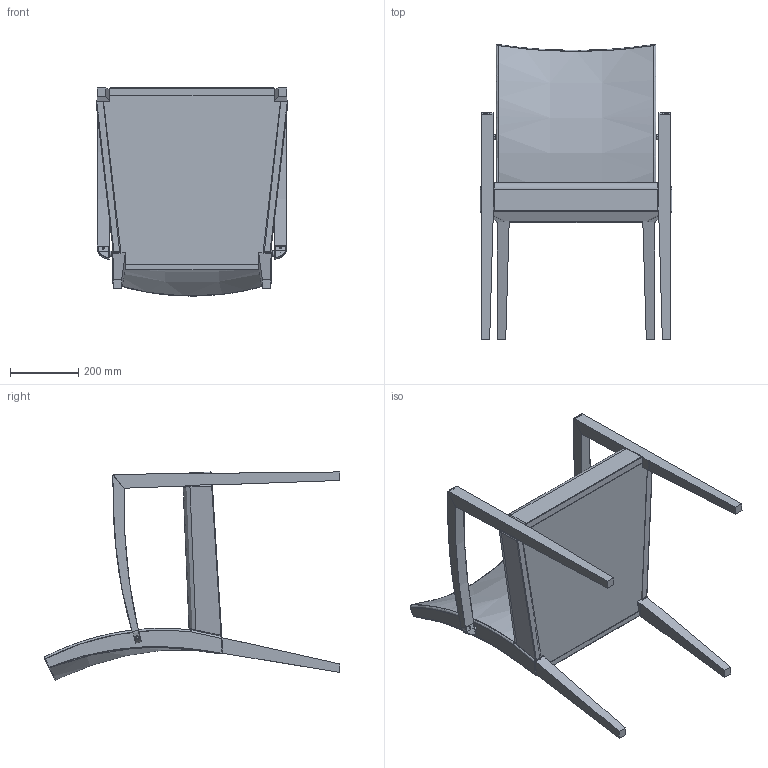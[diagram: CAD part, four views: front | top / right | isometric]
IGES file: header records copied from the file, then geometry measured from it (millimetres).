
Start section: SolidWorks IGES file using analytic representation for surfaces
Global section: file name: C:\Users\Adao\Documents\Trab Adao\Desenho técnico PRODUÇÃO\J M S\CASSIS\Linha CASSIS (sat)\CADEIRÃO M-15 C.IGS; native system: SolidWorks 2012; preprocessor: SolidWorks 2012; author: Adao; date: 121027.102001; units: millimetre
Bounding box: 562.31 x 865.58 x 609.9 mm (x, y, z)
Surface area: 2163347 mm2 (no closed solid volume)
Topology: 0 solids, 0 shells, 384 faces, 4114 edges, 4103 vertices
Faces by surface type: bspline 274, revolution 110
